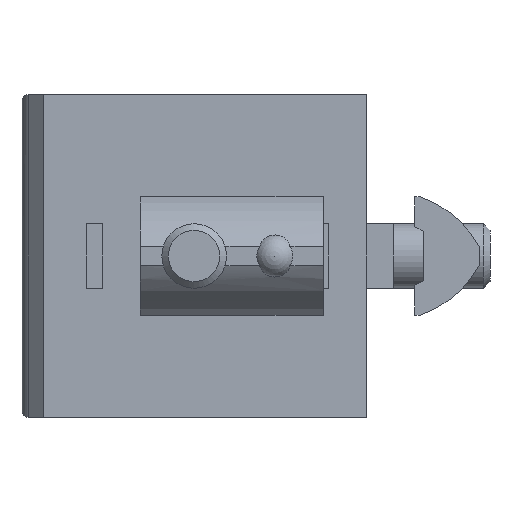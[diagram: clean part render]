
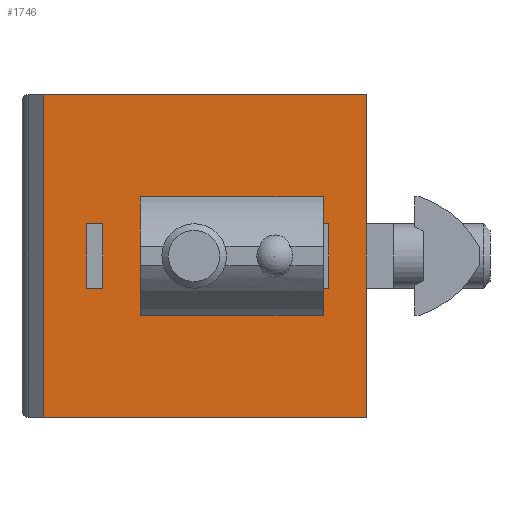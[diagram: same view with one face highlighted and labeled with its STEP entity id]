
A CAD part, front view. The second image highlights one B-rep face of the part: STEP entity #1746.
In plain terms, the highlighted planar face has unit normal (0, -1, 0).
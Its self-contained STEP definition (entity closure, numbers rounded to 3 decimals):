
#72=CIRCLE('',#1845,3.25);
#73=CIRCLE('',#1846,3.25);
#102=ORIENTED_EDGE('',*,*,#486,.T.);
#103=ORIENTED_EDGE('',*,*,#487,.T.);
#104=ORIENTED_EDGE('',*,*,#488,.T.);
#105=ORIENTED_EDGE('',*,*,#489,.T.);
#106=ORIENTED_EDGE('',*,*,#490,.F.);
#107=ORIENTED_EDGE('',*,*,#491,.T.);
#108=ORIENTED_EDGE('',*,*,#492,.T.);
#109=ORIENTED_EDGE('',*,*,#493,.F.);
#110=ORIENTED_EDGE('',*,*,#494,.T.);
#111=ORIENTED_EDGE('',*,*,#495,.F.);
#112=ORIENTED_EDGE('',*,*,#496,.F.);
#113=ORIENTED_EDGE('',*,*,#497,.T.);
#114=ORIENTED_EDGE('',*,*,#498,.T.);
#115=ORIENTED_EDGE('',*,*,#499,.T.);
#116=ORIENTED_EDGE('',*,*,#500,.F.);
#117=ORIENTED_EDGE('',*,*,#501,.F.);
#486=EDGE_CURVE('',#678,#679,#806,.T.);
#487=EDGE_CURVE('',#679,#680,#72,.T.);
#488=EDGE_CURVE('',#680,#681,#807,.T.);
#489=EDGE_CURVE('',#681,#678,#73,.T.);
#490=EDGE_CURVE('',#682,#683,#808,.T.);
#491=EDGE_CURVE('',#682,#684,#809,.T.);
#492=EDGE_CURVE('',#684,#685,#810,.T.);
#493=EDGE_CURVE('',#683,#685,#811,.T.);
#494=EDGE_CURVE('',#686,#687,#812,.T.);
#495=EDGE_CURVE('',#688,#687,#813,.T.);
#496=EDGE_CURVE('',#689,#688,#814,.T.);
#497=EDGE_CURVE('',#689,#686,#815,.T.);
#498=EDGE_CURVE('',#690,#691,#816,.T.);
#499=EDGE_CURVE('',#691,#692,#817,.T.);
#500=EDGE_CURVE('',#693,#692,#818,.T.);
#501=EDGE_CURVE('',#690,#693,#819,.T.);
#678=VERTEX_POINT('',#2373);
#679=VERTEX_POINT('',#2374);
#680=VERTEX_POINT('',#2376);
#681=VERTEX_POINT('',#2378);
#682=VERTEX_POINT('',#2381);
#683=VERTEX_POINT('',#2382);
#684=VERTEX_POINT('',#2384);
#685=VERTEX_POINT('',#2386);
#686=VERTEX_POINT('',#2389);
#687=VERTEX_POINT('',#2390);
#688=VERTEX_POINT('',#2392);
#689=VERTEX_POINT('',#2394);
#690=VERTEX_POINT('',#2397);
#691=VERTEX_POINT('',#2398);
#692=VERTEX_POINT('',#2400);
#693=VERTEX_POINT('',#2402);
#806=LINE('',#2372,#962);
#807=LINE('',#2377,#963);
#808=LINE('',#2380,#964);
#809=LINE('',#2383,#965);
#810=LINE('',#2385,#966);
#811=LINE('',#2387,#967);
#812=LINE('',#2388,#968);
#813=LINE('',#2391,#969);
#814=LINE('',#2393,#970);
#815=LINE('',#2395,#971);
#816=LINE('',#2396,#972);
#817=LINE('',#2399,#973);
#818=LINE('',#2401,#974);
#819=LINE('',#2403,#975);
#962=VECTOR('',#1973,1000.);
#963=VECTOR('',#1976,1000.);
#964=VECTOR('',#1979,1000.);
#965=VECTOR('',#1980,1000.);
#966=VECTOR('',#1981,1000.);
#967=VECTOR('',#1982,1000.);
#968=VECTOR('',#1983,1000.);
#969=VECTOR('',#1984,1000.);
#970=VECTOR('',#1985,1000.);
#971=VECTOR('',#1986,1000.);
#972=VECTOR('',#1987,1000.);
#973=VECTOR('',#1988,1000.);
#974=VECTOR('',#1989,1000.);
#975=VECTOR('',#1990,1000.);
#1115=EDGE_LOOP('',(#102,#103,#104,#105));
#1116=EDGE_LOOP('',(#106,#107,#108,#109));
#1117=EDGE_LOOP('',(#110,#111,#112,#113));
#1118=EDGE_LOOP('',(#114,#115,#116,#117));
#1215=FACE_BOUND('',#1115,.T.);
#1216=FACE_BOUND('',#1116,.T.);
#1217=FACE_BOUND('',#1117,.T.);
#1218=FACE_BOUND('',#1118,.T.);
#1315=PLANE('',#1844);
#1746=ADVANCED_FACE('',(#1215,#1216,#1217,#1218),#1315,.F.);
#1844=AXIS2_PLACEMENT_3D('',#2371,#1971,#1972);
#1845=AXIS2_PLACEMENT_3D('',#2375,#1974,#1975);
#1846=AXIS2_PLACEMENT_3D('',#2379,#1977,#1978);
#1971=DIRECTION('',(0.,1.,0.));
#1972=DIRECTION('',(0.,0.,1.));
#1973=DIRECTION('',(-1.,0.,0.));
#1974=DIRECTION('',(0.,1.,0.));
#1975=DIRECTION('',(1.,0.,0.));
#1976=DIRECTION('',(1.,0.,0.));
#1977=DIRECTION('',(0.,1.,0.));
#1978=DIRECTION('',(1.,0.,0.));
#1979=DIRECTION('',(0.,0.,-1.));
#1980=DIRECTION('',(1.,0.,0.));
#1981=DIRECTION('',(0.,0.,-1.));
#1982=DIRECTION('',(1.,0.,0.));
#1983=DIRECTION('',(1.,0.,0.));
#1984=DIRECTION('',(0.,0.,-1.));
#1985=DIRECTION('',(1.,0.,0.));
#1986=DIRECTION('',(0.,0.,-1.));
#1987=DIRECTION('',(1.,0.,0.));
#1988=DIRECTION('',(0.,0.,-1.));
#1989=DIRECTION('',(1.,0.,0.));
#1990=DIRECTION('',(0.,0.,-1.));
#2371=CARTESIAN_POINT('',(0.,0.,15.));
#2372=CARTESIAN_POINT('',(16.,0.,-3.25));
#2373=CARTESIAN_POINT('',(16.,0.,-3.25));
#2374=CARTESIAN_POINT('',(14.,0.,-3.25));
#2375=CARTESIAN_POINT('',(14.,0.,0.));
#2376=CARTESIAN_POINT('',(14.,0.,3.25));
#2377=CARTESIAN_POINT('',(14.,0.,3.25));
#2378=CARTESIAN_POINT('',(16.,0.,3.25));
#2379=CARTESIAN_POINT('',(16.,0.,0.));
#2380=CARTESIAN_POINT('',(25.,0.,3.));
#2381=CARTESIAN_POINT('',(25.,0.,3.));
#2382=CARTESIAN_POINT('',(25.,0.,-3.));
#2383=CARTESIAN_POINT('',(0.,0.,3.));
#2384=CARTESIAN_POINT('',(26.5,0.,3.));
#2385=CARTESIAN_POINT('',(26.5,0.,3.));
#2386=CARTESIAN_POINT('',(26.5,0.,-3.));
#2387=CARTESIAN_POINT('',(0.,0.,-3.));
#2388=CARTESIAN_POINT('',(0.,0.,-15.));
#2389=CARTESIAN_POINT('',(0.,0.,-15.));
#2390=CARTESIAN_POINT('',(30.,0.,-15.));
#2391=CARTESIAN_POINT('',(30.,0.,15.));
#2392=CARTESIAN_POINT('',(30.,0.,15.));
#2393=CARTESIAN_POINT('',(0.,0.,15.));
#2394=CARTESIAN_POINT('',(0.,0.,15.));
#2395=CARTESIAN_POINT('',(0.,0.,15.));
#2396=CARTESIAN_POINT('',(0.,0.,3.));
#2397=CARTESIAN_POINT('',(4.,0.,3.));
#2398=CARTESIAN_POINT('',(5.5,0.,3.));
#2399=CARTESIAN_POINT('',(5.5,0.,3.));
#2400=CARTESIAN_POINT('',(5.5,0.,-3.));
#2401=CARTESIAN_POINT('',(0.,0.,-3.));
#2402=CARTESIAN_POINT('',(4.,0.,-3.));
#2403=CARTESIAN_POINT('',(4.,0.,15.));
